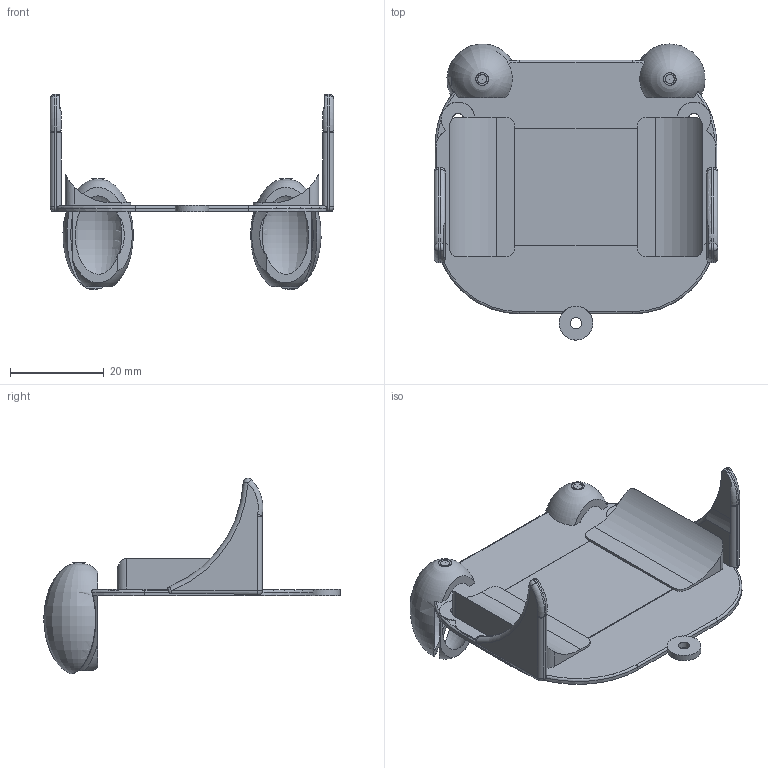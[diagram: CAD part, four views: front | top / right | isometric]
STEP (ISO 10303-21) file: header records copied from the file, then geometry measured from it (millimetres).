
FILE_DESCRIPTION(('Open CASCADE Model'),'2;1');
FILE_NAME('Open CASCADE Shape Model','2026-09-27T12:46:07',('Author'),( 'Open CASCADE'),'Open CASCADE STEP processor 7.8','Open CASCADE 7.8' ,'Unknown');
FILE_SCHEMA(('AUTOMOTIVE_DESIGN { 1 0 10303 214 1 1 1 1 }'));
Products named in the file (1): Open CASCADE STEP translator 7.8 2
Bounding box: 60.4 x 63.1 x 41.64 mm (x, y, z)
Volume: 7451.4 mm3; surface area: 10938.4 mm2
Topology: 1 solids, 1 shells, 179 faces, 519 edges, 324 vertices
Faces by surface type: plane 76, cylinder 59, torus 22, sphere 12, revolution 8, bspline 2
Full cylindrical faces by diameter (mm): 2.4 x3, 7.2 x1
Entity records: 41723 total; most frequent: CARTESIAN_POINT 32425, DIRECTION 1515, ORIENTED_EDGE 1014, PCURVE 1014, DEFINITIONAL_REPRESENTATION 1014, LINE 742, VECTOR 742, EDGE_CURVE 507
